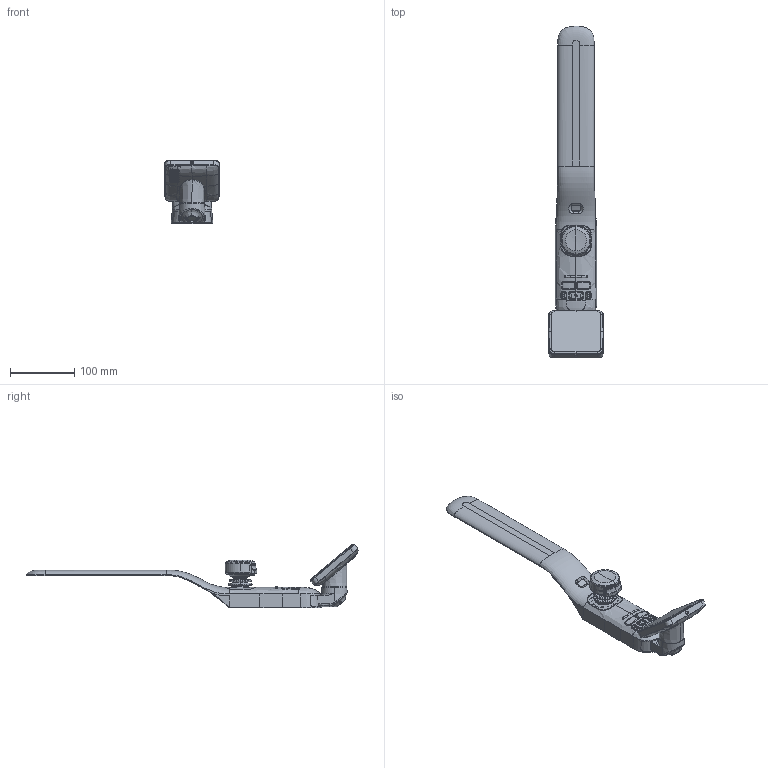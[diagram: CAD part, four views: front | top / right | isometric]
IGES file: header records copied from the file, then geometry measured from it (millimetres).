
Start section: SolidWorks IGES file using analytic representation for surfaces
Global section: file name: D:\Hans-Work\ev1-opensource\open source\Replacement and Custom Parts\Armrest-Screen+Joystick\Screen+joystick.IGS; native system: SolidWorks 2023; preprocessor: SolidWorks 2023; author: hans.cai; date: 260417.181110; units: millimetre
Bounding box: 85.01 x 518.42 x 99.58 mm (x, y, z)
Volume: 425049 mm3; surface area: 163593.9 mm2
Topology: 18 solids, 21 shells, 2991 faces, 8111 edges, 5160 vertices
Faces by surface type: plane 1052, bspline 1046, revolution 893
